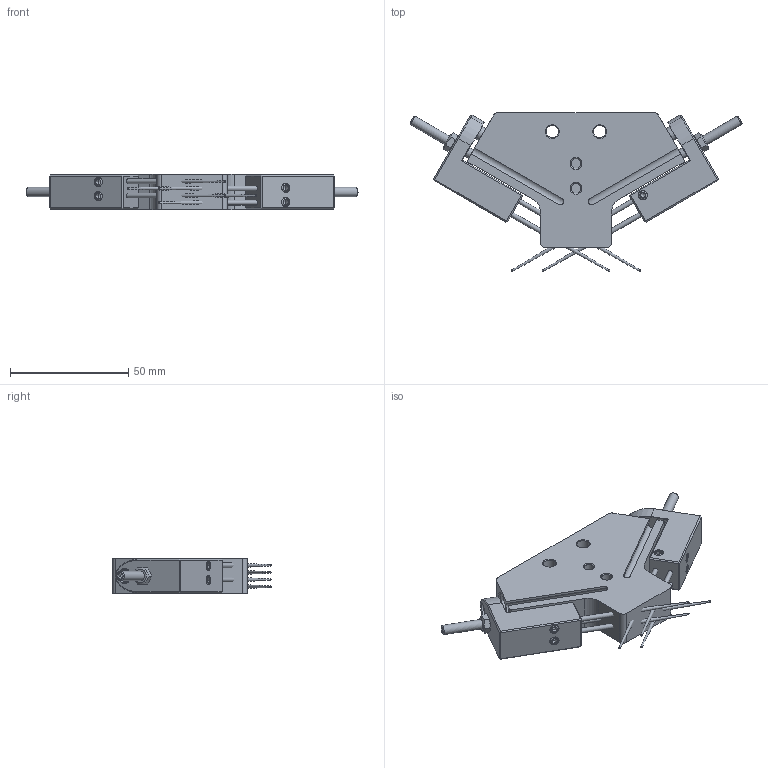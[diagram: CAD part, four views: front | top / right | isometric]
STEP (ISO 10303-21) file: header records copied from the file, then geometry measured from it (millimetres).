
FILE_DESCRIPTION(/* description */ ('NHL-10'),/* implementation_level */ '2;1');
FILE_NAME(/* name */ 'NHL-10.stp',/* time_stamp */ '2026-09-05T12:30:57+02:00',/* author */ ('Jensen'),/* organization */ (''),/* preprocessor_version */ 'ST-DEVELOPER v20.1',/* originating_system */ 'Autodesk Inventor 2026',/* authorisation */ '');
FILE_SCHEMA (('AUTOMOTIVE_DESIGN { 1 0 10303 214 3 1 1 }'));
Length unit declared in the file: millimetre
Products named in the file (4): NHL-10; 100-162-513; NHL-10_piston_rod; NHL-10_needle_holder
Assembly tree (5 placements, depth 2):
  NHL-10
    100-162-513
    NHL-10_piston_rod  x2
    NHL-10_needle_holder  x2
Bounding box: 140.31 x 67.07 x 15 mm (x, y, z)
Volume: 63018.6 mm3; surface area: 24396.5 mm2
Topology: 7 solids, 7 shells, 308 faces, 722 edges, 455 vertices
Faces by surface type: plane 178, cylinder 60, cone 60, bspline 6, torus 4
Full cylindrical faces by diameter (mm): 2 x6, 2.459 x2, 3 x2, 3.3 x2, 4 x4, 4.134 x3, 4.2 x1, 5.3 x2, 5.5 x2, 5.8 x2, 6 x4, 9.8 x2, 10 x2, 13 x4, 13.6 x2
Entity records: 5788 total; most frequent: CARTESIAN_POINT 1189, DIRECTION 903, ORIENTED_EDGE 854, EDGE_CURVE 427, AXIS2_PLACEMENT_3D 333, VERTEX_POINT 275, LINE 237, VECTOR 237
